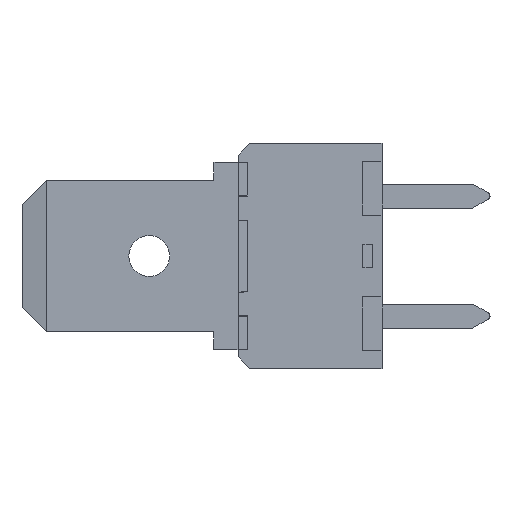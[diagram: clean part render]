
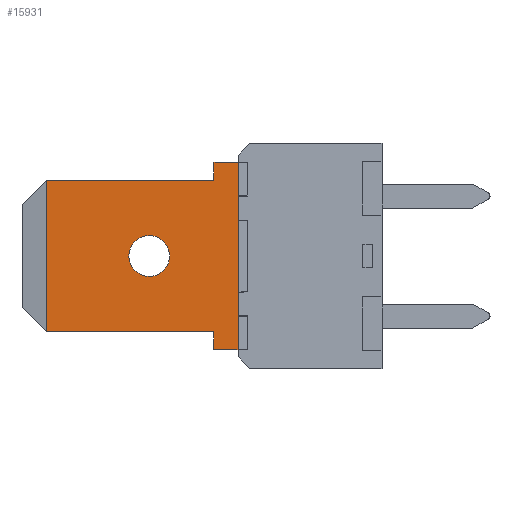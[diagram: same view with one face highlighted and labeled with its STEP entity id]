
A CAD part, left-side view. The second image highlights one B-rep face of the part: STEP entity #15931.
In plain terms, the highlighted planar face has unit normal (-1, 0, 0).
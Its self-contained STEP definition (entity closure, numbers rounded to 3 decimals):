
#240 = VERTEX_POINT ( 'NONE', #27032 ) ;
#281 = VERTEX_POINT ( 'NONE', #27170 ) ;
#3246 = CARTESIAN_POINT ( 'NONE',  ( 24.66, 6.082, -8.601 ) ) ;
#5251 = DIRECTION ( 'NONE',  ( 0., 0., 1. ) ) ;
#5252 = DIRECTION ( 'NONE',  ( -1., 0., 0. ) ) ;
#5253 = CARTESIAN_POINT ( 'NONE',  ( 24.66, 5.682, -8.601 ) ) ;
#5254 = AXIS2_PLACEMENT_3D ( 'NONE', #5253, #5252, #5251 ) ;
#5255 = PLANE ( 'NONE',  #5254 ) ;
#5256 = FACE_OUTER_BOUND ( 'NONE', #15918, .T. ) ;
#5257 = FACE_BOUND ( 'NONE', #15929, .T. ) ;
#5277 = DIRECTION ( 'NONE',  ( 0., -1., 0. ) ) ;
#5278 = VECTOR ( 'NONE', #5277, 1000. ) ;
#5279 = CARTESIAN_POINT ( 'NONE',  ( 24.66, 9.882, -8.601 ) ) ;
#5280 = LINE ( 'NONE', #5279, #5278 ) ;
#5315 = CARTESIAN_POINT ( 'NONE',  ( 24.66, 7.082, -8.601 ) ) ;
#5316 = DIRECTION ( 'NONE',  ( 0., 0., -1. ) ) ;
#5317 = VECTOR ( 'NONE', #5316, 1000. ) ;
#5318 = CARTESIAN_POINT ( 'NONE',  ( 24.66, 7.082, -8.226 ) ) ;
#5319 = LINE ( 'NONE', #5318, #5317 ) ;
#5336 = LINE ( 'NONE', #5395, #5394 ) ;
#5367 = CARTESIAN_POINT ( 'NONE',  ( 24.66, 5.682, -4.701 ) ) ;
#5368 = LINE ( 'NONE', #5367, #5427 ) ;
#5369 = CARTESIAN_POINT ( 'NONE',  ( 24.66, 5.682, -0.801 ) ) ;
#5370 = DIRECTION ( 'NONE',  ( 0., 0., -1. ) ) ;
#5371 = VECTOR ( 'NONE', #5370, 1000. ) ;
#5372 = CARTESIAN_POINT ( 'NONE',  ( 24.66, 5.682, -4.7 ) ) ;
#5373 = LINE ( 'NONE', #5372, #5371 ) ;
#5381 = DIRECTION ( 'NONE',  ( 0., 0., 1. ) ) ;
#5382 = VECTOR ( 'NONE', #5381, 1000. ) ;
#5383 = CARTESIAN_POINT ( 'NONE',  ( 24.66, 5.682, -4.701 ) ) ;
#5384 = LINE ( 'NONE', #5383, #5382 ) ;
#5389 = DIRECTION ( 'NONE',  ( 0., 0., 1. ) ) ;
#5390 = VECTOR ( 'NONE', #5389, 1000. ) ;
#5391 = CARTESIAN_POINT ( 'NONE',  ( 24.66, 5.682, -4.701 ) ) ;
#5392 = LINE ( 'NONE', #5391, #5390 ) ;
#5393 = DIRECTION ( 'NONE',  ( 0., 1., 0. ) ) ;
#5394 = VECTOR ( 'NONE', #5393, 1000. ) ;
#5395 = CARTESIAN_POINT ( 'NONE',  ( 24.66, 6.382, -0.801 ) ) ;
#5408 = CARTESIAN_POINT ( 'NONE',  ( 24.66, 5.682, -3.2 ) ) ;
#5409 = DIRECTION ( 'NONE',  ( 0., 0., 1. ) ) ;
#5410 = VECTOR ( 'NONE', #5409, 1000. ) ;
#5411 = CARTESIAN_POINT ( 'NONE',  ( 24.66, 6.082, -8.601 ) ) ;
#5412 = LINE ( 'NONE', #5411, #5410 ) ;
#5413 = CARTESIAN_POINT ( 'NONE',  ( 24.66, 5.682, -2.2 ) ) ;
#5414 = CARTESIAN_POINT ( 'NONE',  ( 24.66, 6.082, -8.6 ) ) ;
#5415 = CARTESIAN_POINT ( 'NONE',  ( 24.66, 5.682, -8.6 ) ) ;
#5416 = DIRECTION ( 'NONE',  ( 0., -1., 0. ) ) ;
#5417 = VECTOR ( 'NONE', #5416, 1000. ) ;
#5418 = CARTESIAN_POINT ( 'NONE',  ( 24.66, 9.882, -8.6 ) ) ;
#5419 = LINE ( 'NONE', #5418, #5417 ) ;
#5420 = CARTESIAN_POINT ( 'NONE',  ( 24.66, 5.682, -7.2 ) ) ;
#5421 = CARTESIAN_POINT ( 'NONE',  ( 24.66, 5.682, -6.2 ) ) ;
#5422 = DIRECTION ( 'NONE',  ( 0., 0., -1. ) ) ;
#5423 = VECTOR ( 'NONE', #5422, 1000. ) ;
#5424 = CARTESIAN_POINT ( 'NONE',  ( 24.66, 5.682, -7.9 ) ) ;
#5425 = LINE ( 'NONE', #5424, #5423 ) ;
#5426 = DIRECTION ( 'NONE',  ( 0., 0., 1. ) ) ;
#5427 = VECTOR ( 'NONE', #5426, 1000. ) ;
#7926 = DIRECTION ( 'NONE',  ( 0., 0., -1. ) ) ;
#7927 = VECTOR ( 'NONE', #7926, 1000. ) ;
#7928 = CARTESIAN_POINT ( 'NONE',  ( 24.66, 14.082, -4.701 ) ) ;
#7929 = LINE ( 'NONE', #7928, #7927 ) ;
#7974 = DIRECTION ( 'NONE',  ( 0., 0., -1. ) ) ;
#7975 = VECTOR ( 'NONE', #7974, 1000. ) ;
#7976 = CARTESIAN_POINT ( 'NONE',  ( 24.66, 7.082, -4.701 ) ) ;
#7982 = LINE ( 'NONE', #7976, #7975 ) ;
#8029 = CARTESIAN_POINT ( 'NONE',  ( 24.66, 7.082, -0.801 ) ) ;
#8110 = CARTESIAN_POINT ( 'NONE',  ( 24.66, 7.082, -1.551 ) ) ;
#8480 = DIRECTION ( 'NONE',  ( 0., 1., 0. ) ) ;
#8481 = VECTOR ( 'NONE', #8480, 1000. ) ;
#8482 = CARTESIAN_POINT ( 'NONE',  ( 24.66, 9.882, -1.551 ) ) ;
#8483 = LINE ( 'NONE', #8482, #8481 ) ;
#8739 = DIRECTION ( 'NONE',  ( 0., 0., 1. ) ) ;
#8740 = DIRECTION ( 'NONE',  ( 1., 0., 0. ) ) ;
#8741 = CARTESIAN_POINT ( 'NONE',  ( 24.66, 9.782, -4.701 ) ) ;
#8742 = AXIS2_PLACEMENT_3D ( 'NONE', #8741, #8740, #8739 ) ;
#8743 = CIRCLE ( 'NONE', #8742, 0.85 ) ;
#8750 = DIRECTION ( 'NONE',  ( 0., 0., 1. ) ) ;
#8751 = DIRECTION ( 'NONE',  ( 1., 0., 0. ) ) ;
#8752 = AXIS2_PLACEMENT_3D ( 'NONE', #8759, #8751, #8750 ) ;
#8753 = CIRCLE ( 'NONE', #8752, 0.85 ) ;
#8759 = CARTESIAN_POINT ( 'NONE',  ( 24.66, 9.782, -4.701 ) ) ;
#8763 = CARTESIAN_POINT ( 'NONE',  ( 24.66, 9.782, -4.701 ) ) ;
#8770 = DIRECTION ( 'NONE',  ( 0., -1., 0. ) ) ;
#8771 = VECTOR ( 'NONE', #8770, 1000. ) ;
#8772 = CARTESIAN_POINT ( 'NONE',  ( 24.66, 9.882, -7.851 ) ) ;
#8777 = LINE ( 'NONE', #8772, #8771 ) ;
#8795 = CARTESIAN_POINT ( 'NONE',  ( 24.66, 7.082, -7.851 ) ) ;
#8822 = DIRECTION ( 'NONE',  ( 0., 0., 1. ) ) ;
#8823 = DIRECTION ( 'NONE',  ( 1., 0., 0. ) ) ;
#8824 = AXIS2_PLACEMENT_3D ( 'NONE', #8763, #8823, #8822 ) ;
#8825 = CIRCLE ( 'NONE', #8824, 0.85 ) ;
#8839 = CARTESIAN_POINT ( 'NONE',  ( 24.66, 8.932, -4.701 ) ) ;
#8845 = CARTESIAN_POINT ( 'NONE',  ( 24.66, 10.632, -4.701 ) ) ;
#8850 = CARTESIAN_POINT ( 'NONE',  ( 24.66, 9.782, -3.851 ) ) ;
#14592 = VERTEX_POINT ( 'NONE', #3246 ) ;
#15909 = ORIENTED_EDGE ( 'NONE', *, *, #17492, .T. ) ;
#15916 = ORIENTED_EDGE ( 'NONE', *, *, #17539, .T. ) ;
#15917 = ORIENTED_EDGE ( 'NONE', *, *, #18010, .T. ) ;
#15918 = EDGE_LOOP ( 'NONE', ( #15916, #15985, #15909, #15977, #15964, #15966, #16029, #16024, #16021, #16016, #16013, #16011, #16007, #16004 ) ) ;
#15919 = ORIENTED_EDGE ( 'NONE', *, *, #18004, .T. ) ;
#15921 = ORIENTED_EDGE ( 'NONE', *, *, #18043, .T. ) ;
#15929 = EDGE_LOOP ( 'NONE', ( #15917, #15919, #15921 ) ) ;
#15931 = ADVANCED_FACE ( 'NONE', ( #5257, #5256 ), #5255, .T. ) ;
#15954 = EDGE_CURVE ( 'NONE', #15967, #14592, #5280, .T. ) ;
#15964 = ORIENTED_EDGE ( 'NONE', *, *, #15965, .T. ) ;
#15965 = EDGE_CURVE ( 'NONE', #18062, #15967, #5319, .T. ) ;
#15966 = ORIENTED_EDGE ( 'NONE', *, *, #15954, .T. ) ;
#15967 = VERTEX_POINT ( 'NONE', #5315 ) ;
#15977 = ORIENTED_EDGE ( 'NONE', *, *, #18034, .T. ) ;
#15985 = ORIENTED_EDGE ( 'NONE', *, *, #17868, .T. ) ;
#16003 = EDGE_CURVE ( 'NONE', #16014, #17546, #5336, .T. ) ;
#16004 = ORIENTED_EDGE ( 'NONE', *, *, #16003, .T. ) ;
#16006 = EDGE_CURVE ( 'NONE', #16026, #16014, #5392, .T. ) ;
#16007 = ORIENTED_EDGE ( 'NONE', *, *, #16006, .T. ) ;
#16009 = EDGE_CURVE ( 'NONE', #16030, #16026, #5384, .T. ) ;
#16011 = ORIENTED_EDGE ( 'NONE', *, *, #16009, .T. ) ;
#16012 = EDGE_CURVE ( 'NONE', #16030, #16019, #5373, .T. ) ;
#16013 = ORIENTED_EDGE ( 'NONE', *, *, #16012, .F. ) ;
#16014 = VERTEX_POINT ( 'NONE', #5369 ) ;
#16015 = EDGE_CURVE ( 'NONE', #16020, #16019, #5368, .T. ) ;
#16016 = ORIENTED_EDGE ( 'NONE', *, *, #16015, .T. ) ;
#16018 = EDGE_CURVE ( 'NONE', #16020, #16023, #5425, .T. ) ;
#16019 = VERTEX_POINT ( 'NONE', #5421 ) ;
#16020 = VERTEX_POINT ( 'NONE', #5420 ) ;
#16021 = ORIENTED_EDGE ( 'NONE', *, *, #16018, .F. ) ;
#16022 = EDGE_CURVE ( 'NONE', #16025, #16023, #5419, .T. ) ;
#16023 = VERTEX_POINT ( 'NONE', #5415 ) ;
#16024 = ORIENTED_EDGE ( 'NONE', *, *, #16022, .T. ) ;
#16025 = VERTEX_POINT ( 'NONE', #5414 ) ;
#16026 = VERTEX_POINT ( 'NONE', #5413 ) ;
#16027 = EDGE_CURVE ( 'NONE', #14592, #16025, #5412, .T. ) ;
#16029 = ORIENTED_EDGE ( 'NONE', *, *, #16027, .T. ) ;
#16030 = VERTEX_POINT ( 'NONE', #5408 ) ;
#17492 = EDGE_CURVE ( 'NONE', #281, #240, #7929, .T. ) ;
#17539 = EDGE_CURVE ( 'NONE', #17546, #17629, #7982, .T. ) ;
#17546 = VERTEX_POINT ( 'NONE', #8029 ) ;
#17629 = VERTEX_POINT ( 'NONE', #8110 ) ;
#17868 = EDGE_CURVE ( 'NONE', #17629, #281, #8483, .T. ) ;
#18004 = EDGE_CURVE ( 'NONE', #18075, #18086, #8753, .T. ) ;
#18010 = EDGE_CURVE ( 'NONE', #18079, #18075, #8743, .T. ) ;
#18034 = EDGE_CURVE ( 'NONE', #240, #18062, #8777, .T. ) ;
#18043 = EDGE_CURVE ( 'NONE', #18086, #18079, #8825, .T. ) ;
#18062 = VERTEX_POINT ( 'NONE', #8795 ) ;
#18075 = VERTEX_POINT ( 'NONE', #8850 ) ;
#18079 = VERTEX_POINT ( 'NONE', #8845 ) ;
#18086 = VERTEX_POINT ( 'NONE', #8839 ) ;
#27032 = CARTESIAN_POINT ( 'NONE',  ( 24.66, 14.082, -7.851 ) ) ;
#27170 = CARTESIAN_POINT ( 'NONE',  ( 24.66, 14.082, -1.551 ) ) ;
